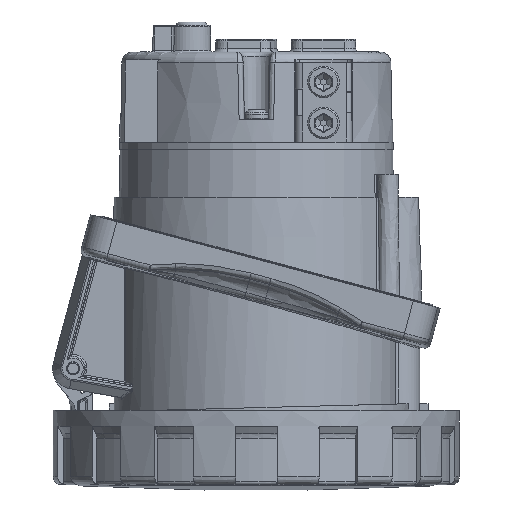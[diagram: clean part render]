
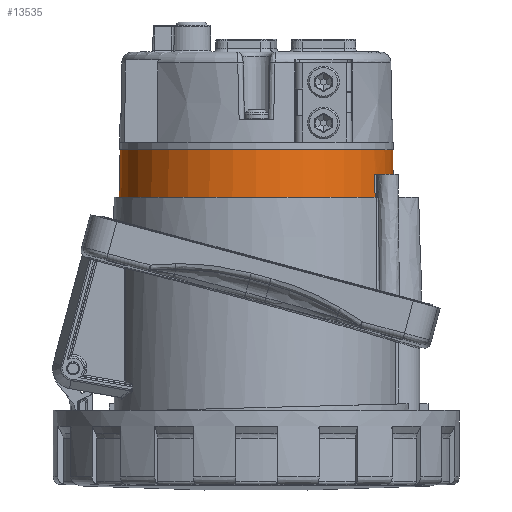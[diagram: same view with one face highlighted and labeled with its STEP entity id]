
A CAD part, left-side view. The second image highlights one B-rep face of the part: STEP entity #13535.
In plain terms, the highlighted conical face has half-angle 1 degrees and reference radius 43.125 mm.
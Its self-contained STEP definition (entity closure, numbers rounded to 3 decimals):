
#3487=B_SPLINE_CURVE_WITH_KNOTS('',3,(#144722,#144723,#144724,#144725,#144726,
#144727,#144728,#144729,#144730,#144731),.UNSPECIFIED.,.F.,.F.,(4,3,3,4),
(0.,0.081,0.405,1.),.UNSPECIFIED.);
#3496=B_SPLINE_CURVE_WITH_KNOTS('',3,(#144856,#144857,#144858,#144859,#144860,
#144861,#144862,#144863,#144864,#144865),.UNSPECIFIED.,.F.,.F.,(4,3,3,4),
(0.,0.081,0.405,1.),.UNSPECIFIED.);
#3498=B_SPLINE_CURVE_WITH_KNOTS('',3,(#144887,#144888,#144889,#144890,#144891,
#144892,#144893,#144894,#144895,#144896),.UNSPECIFIED.,.F.,.F.,(4,3,3,4),
(0.,0.081,0.405,1.),.UNSPECIFIED.);
#3502=B_SPLINE_CURVE_WITH_KNOTS('',3,(#144946,#144947,#144948,#144949,#144950,
#144951,#144952,#144953,#144954,#144955),.UNSPECIFIED.,.F.,.F.,(4,3,3,4),
(0.,0.081,0.405,1.),.UNSPECIFIED.);
#5397=CONICAL_SURFACE('',#82715,43.125,1.);
#6602=FACE_BOUND('',#24284,.T.);
#6603=FACE_BOUND('',#24285,.T.);
#9813=CIRCLE('',#82553,43.387);
#9856=CIRCLE('',#82706,43.258);
#9859=CIRCLE('',#82711,43.258);
#9860=CIRCLE('',#82713,43.387);
#9861=CIRCLE('',#82714,43.125);
#13535=ADVANCED_FACE('',(#6602,#6603),#5397,.T.);
#24284=EDGE_LOOP('',(#41003,#41004,#41005,#41006,#41007,#41008,#41009,#41010));
#24285=EDGE_LOOP('',(#41011));
#41003=ORIENTED_EDGE('',*,*,#63637,.T.);
#41004=ORIENTED_EDGE('',*,*,#63849,.T.);
#41005=ORIENTED_EDGE('',*,*,#63667,.F.);
#41006=ORIENTED_EDGE('',*,*,#63845,.F.);
#41007=ORIENTED_EDGE('',*,*,#63660,.F.);
#41008=ORIENTED_EDGE('',*,*,#63646,.T.);
#41009=ORIENTED_EDGE('',*,*,#63656,.T.);
#41010=ORIENTED_EDGE('',*,*,#63848,.F.);
#41011=ORIENTED_EDGE('',*,*,#63850,.F.);
#53835=VERTEX_POINT('',#144721);
#53836=VERTEX_POINT('',#144732);
#53842=VERTEX_POINT('',#144792);
#53843=VERTEX_POINT('',#144794);
#53850=VERTEX_POINT('',#144855);
#53853=VERTEX_POINT('',#144897);
#53859=VERTEX_POINT('',#144956);
#53860=VERTEX_POINT('',#144957);
#53945=VERTEX_POINT('',#145814);
#63637=EDGE_CURVE('',#53836,#53835,#3487,.T.);
#63646=EDGE_CURVE('',#53843,#53842,#9813,.T.);
#63656=EDGE_CURVE('',#53842,#53850,#3496,.T.);
#63660=EDGE_CURVE('',#53843,#53853,#3498,.T.);
#63667=EDGE_CURVE('',#53859,#53860,#3502,.T.);
#63845=EDGE_CURVE('',#53853,#53859,#9856,.T.);
#63848=EDGE_CURVE('',#53836,#53850,#9859,.T.);
#63849=EDGE_CURVE('',#53835,#53860,#9860,.T.);
#63850=EDGE_CURVE('',#53945,#53945,#9861,.T.);
#82553=AXIS2_PLACEMENT_3D('',#144793,#97685,#97686);
#82706=AXIS2_PLACEMENT_3D('',#145803,#98082,#98083);
#82711=AXIS2_PLACEMENT_3D('',#145810,#98092,#98093);
#82713=AXIS2_PLACEMENT_3D('',#145812,#98096,#98097);
#82714=AXIS2_PLACEMENT_3D('',#145813,#98098,#98099);
#82715=AXIS2_PLACEMENT_3D('',#145815,#98100,#98101);
#97685=DIRECTION('',(0.,0.,1.));
#97686=DIRECTION('',(1.,0.,0.));
#98082=DIRECTION('',(0.,0.,-1.));
#98083=DIRECTION('',(1.,0.,0.));
#98092=DIRECTION('',(0.,0.,-1.));
#98093=DIRECTION('',(1.,0.,0.));
#98096=DIRECTION('',(0.,0.,1.));
#98097=DIRECTION('',(1.,0.,0.));
#98098=DIRECTION('',(0.,0.,1.));
#98099=DIRECTION('',(1.,0.,0.));
#98100=DIRECTION('',(0.,0.,-1.));
#98101=DIRECTION('',(-1.,0.,0.));
#144721=CARTESIAN_POINT('',(14.113,-21.896,-202.7));
#144722=CARTESIAN_POINT('',(13.995,-21.815,-195.3));
#144723=CARTESIAN_POINT('',(13.998,-21.817,-195.5));
#144724=CARTESIAN_POINT('',(14.002,-21.819,-195.7));
#144725=CARTESIAN_POINT('',(14.005,-21.822,-195.9));
#144726=CARTESIAN_POINT('',(14.018,-21.83,-196.7));
#144727=CARTESIAN_POINT('',(14.03,-21.839,-197.499));
#144728=CARTESIAN_POINT('',(14.043,-21.848,-198.299));
#144729=CARTESIAN_POINT('',(14.066,-21.864,-199.766));
#144730=CARTESIAN_POINT('',(14.09,-21.88,-201.233));
#144731=CARTESIAN_POINT('',(14.113,-21.896,-202.7));
#144732=CARTESIAN_POINT('',(13.995,-21.815,-195.3));
#144792=CARTESIAN_POINT('',(12.548,-22.759,-202.7));
#144793=CARTESIAN_POINT('',(-7.619,15.656,-202.7));
#144794=CARTESIAN_POINT('',(-27.787,-22.759,-202.7));
#144855=CARTESIAN_POINT('',(12.542,-22.616,-195.3));
#144856=CARTESIAN_POINT('',(12.548,-22.759,-202.7));
#144857=CARTESIAN_POINT('',(12.548,-22.755,-202.5));
#144858=CARTESIAN_POINT('',(12.548,-22.752,-202.3));
#144859=CARTESIAN_POINT('',(12.547,-22.748,-202.1));
#144860=CARTESIAN_POINT('',(12.547,-22.732,-201.3));
#144861=CARTESIAN_POINT('',(12.546,-22.717,-200.5));
#144862=CARTESIAN_POINT('',(12.546,-22.701,-199.7));
#144863=CARTESIAN_POINT('',(12.544,-22.673,-198.234));
#144864=CARTESIAN_POINT('',(12.543,-22.645,-196.767));
#144865=CARTESIAN_POINT('',(12.542,-22.616,-195.3));
#144887=CARTESIAN_POINT('',(-27.787,-22.759,-202.7));
#144888=CARTESIAN_POINT('',(-27.787,-22.755,-202.5));
#144889=CARTESIAN_POINT('',(-27.786,-22.752,-202.3));
#144890=CARTESIAN_POINT('',(-27.786,-22.748,-202.1));
#144891=CARTESIAN_POINT('',(-27.786,-22.732,-201.3));
#144892=CARTESIAN_POINT('',(-27.785,-22.717,-200.5));
#144893=CARTESIAN_POINT('',(-27.784,-22.701,-199.7));
#144894=CARTESIAN_POINT('',(-27.783,-22.673,-198.234));
#144895=CARTESIAN_POINT('',(-27.782,-22.645,-196.767));
#144896=CARTESIAN_POINT('',(-27.781,-22.616,-195.3));
#144897=CARTESIAN_POINT('',(-27.781,-22.616,-195.3));
#144946=CARTESIAN_POINT('',(-29.234,-21.815,-195.3));
#144947=CARTESIAN_POINT('',(-29.237,-21.817,-195.5));
#144948=CARTESIAN_POINT('',(-29.24,-21.819,-195.7));
#144949=CARTESIAN_POINT('',(-29.244,-21.822,-195.9));
#144950=CARTESIAN_POINT('',(-29.256,-21.83,-196.7));
#144951=CARTESIAN_POINT('',(-29.269,-21.839,-197.499));
#144952=CARTESIAN_POINT('',(-29.282,-21.848,-198.299));
#144953=CARTESIAN_POINT('',(-29.305,-21.864,-199.766));
#144954=CARTESIAN_POINT('',(-29.329,-21.88,-201.233));
#144955=CARTESIAN_POINT('',(-29.352,-21.896,-202.7));
#144956=CARTESIAN_POINT('',(-29.234,-21.815,-195.3));
#144957=CARTESIAN_POINT('',(-29.352,-21.896,-202.7));
#145803=CARTESIAN_POINT('',(-7.619,15.656,-195.3));
#145810=CARTESIAN_POINT('',(-7.619,15.656,-195.3));
#145812=CARTESIAN_POINT('',(-7.619,15.656,-202.7));
#145813=CARTESIAN_POINT('',(-7.619,15.656,-187.7));
#145814=CARTESIAN_POINT('',(35.506,15.656,-187.7));
#145815=CARTESIAN_POINT('',(-7.619,15.656,-187.7));
